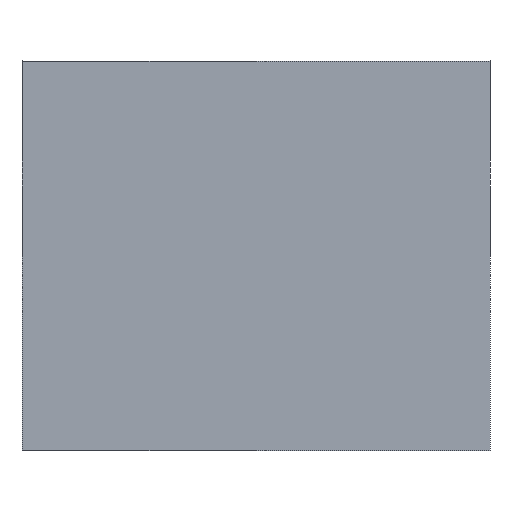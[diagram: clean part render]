
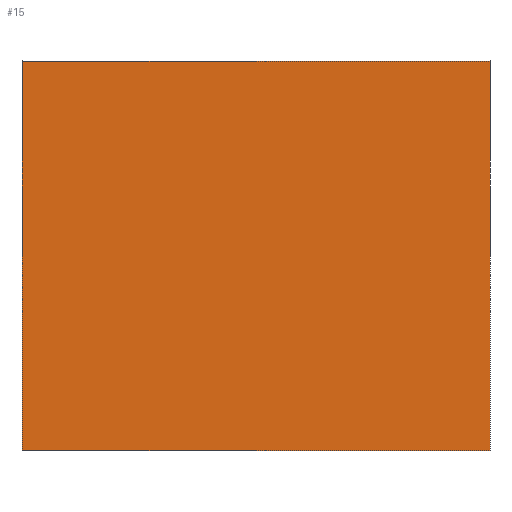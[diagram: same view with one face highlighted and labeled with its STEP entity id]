
A CAD part, front view. The second image highlights one B-rep face of the part: STEP entity #15.
In plain terms, the highlighted planar face has unit normal (0, -1, 0).
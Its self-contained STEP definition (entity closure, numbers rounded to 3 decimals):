
#1 = VERTEX_POINT ( 'NONE', #46 ) ;
#3 = EDGE_CURVE ( 'NONE', #56, #221, #156, .T. ) ;
#7 = VECTOR ( 'NONE', #74, 1000. ) ;
#9 = CARTESIAN_POINT ( 'NONE',  ( -33.983, 0., -7.155 ) ) ;
#15 = ADVANCED_FACE ( 'NONE', ( #171 ), #119, .F. ) ;
#22 = LINE ( 'NONE', #190, #127 ) ;
#41 = EDGE_CURVE ( 'NONE', #1, #56, #207, .T. ) ;
#46 = CARTESIAN_POINT ( 'NONE',  ( -21.983, 0., -7.155 ) ) ;
#47 = EDGE_CURVE ( 'NONE', #221, #225, #22, .T. ) ;
#51 = EDGE_CURVE ( 'NONE', #225, #1, #230, .T. ) ;
#56 = VERTEX_POINT ( 'NONE', #192 ) ;
#74 = DIRECTION ( 'NONE',  ( 1., 0., 0. ) ) ;
#87 = ORIENTED_EDGE ( 'NONE', *, *, #41, .F. ) ;
#89 = CARTESIAN_POINT ( 'NONE',  ( -33.983, 0., -7.155 ) ) ;
#97 = DIRECTION ( 'NONE',  ( 0., 0., -1. ) ) ;
#101 = AXIS2_PLACEMENT_3D ( 'NONE', #132, #179, #177 ) ;
#108 = DIRECTION ( 'NONE',  ( 0., 0., 1. ) ) ;
#112 = DIRECTION ( 'NONE',  ( -1., 0., 0. ) ) ;
#119 = PLANE ( 'NONE',  #101 ) ;
#121 = VECTOR ( 'NONE', #112, 1000. ) ;
#127 = VECTOR ( 'NONE', #108, 1000. ) ;
#132 = CARTESIAN_POINT ( 'NONE',  ( 0., 0., 0. ) ) ;
#136 = CARTESIAN_POINT ( 'NONE',  ( -33.983, 0., -17.155 ) ) ;
#137 = ORIENTED_EDGE ( 'NONE', *, *, #51, .F. ) ;
#139 = ORIENTED_EDGE ( 'NONE', *, *, #47, .F. ) ;
#156 = LINE ( 'NONE', #222, #121 ) ;
#166 = ORIENTED_EDGE ( 'NONE', *, *, #3, .F. ) ;
#171 = FACE_OUTER_BOUND ( 'NONE', #203, .T. ) ;
#177 = DIRECTION ( 'NONE',  ( 0., 0., 1. ) ) ;
#179 = DIRECTION ( 'NONE',  ( 0., 1., 0. ) ) ;
#190 = CARTESIAN_POINT ( 'NONE',  ( -33.983, 0., -17.155 ) ) ;
#192 = CARTESIAN_POINT ( 'NONE',  ( -21.983, 0., -17.155 ) ) ;
#196 = CARTESIAN_POINT ( 'NONE',  ( -21.983, 0., -17.155 ) ) ;
#203 = EDGE_LOOP ( 'NONE', ( #139, #166, #87, #137 ) ) ;
#207 = LINE ( 'NONE', #196, #234 ) ;
#221 = VERTEX_POINT ( 'NONE', #136 ) ;
#222 = CARTESIAN_POINT ( 'NONE',  ( -33.983, 0., -17.155 ) ) ;
#225 = VERTEX_POINT ( 'NONE', #9 ) ;
#230 = LINE ( 'NONE', #89, #7 ) ;
#234 = VECTOR ( 'NONE', #97, 1000. ) ;
